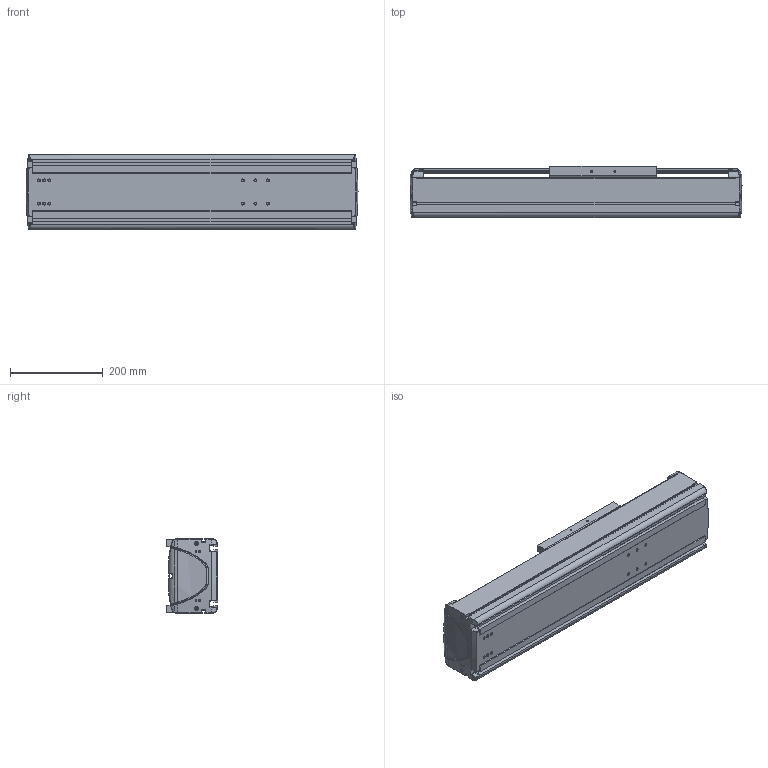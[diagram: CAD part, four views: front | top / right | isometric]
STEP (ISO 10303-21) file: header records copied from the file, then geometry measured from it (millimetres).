
FILE_DESCRIPTION((''),'2;1');
FILE_NAME('BE50G-ST-L_B-25_IGS_PRT','2017-06-18T',(' '),(''),'PRO/ENGINEER BY PARAMETRIC TECHNOLOGY CORPORATION, 2015030','PRO/ENGINEER BY PARAMETRIC TECHNOLOGY CORPORATION, 2015030','');
FILE_SCHEMA(('CONFIG_CONTROL_DESIGN'));
Length unit declared in the file: millimetre
Products named in the file (1): BE50G-ST-L_B-25_IGS_PRT
Bounding box: 714.98 x 110 x 160 mm (x, y, z)
Volume: 3617029.1 mm3; surface area: 1181017.3 mm2
Topology: 2 solids, 69 shells, 1526 faces, 3978 edges, 2535 vertices
Faces by surface type: cylinder 626, plane 607, bspline 110, torus 87, cone 56, sphere 40
Entity records: 52234 total; most frequent: CARTESIAN_POINT 15121, DIRECTION 7642, ORIENTED_EDGE 7636, EDGE_CURVE 3952, AXIS2_PLACEMENT_3D 2830, VERTEX_POINT 2535, VECTOR 1982, LINE 1982
